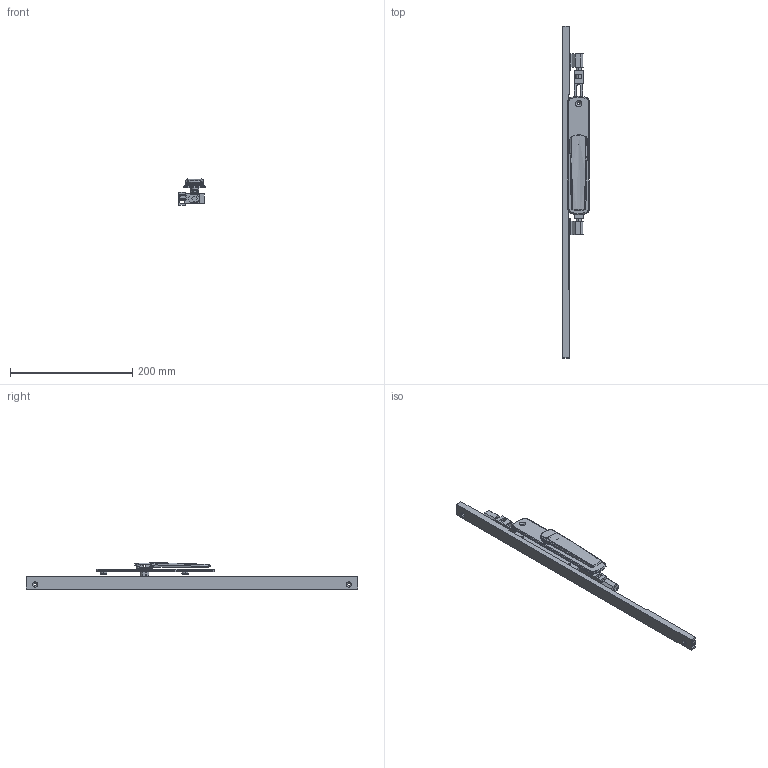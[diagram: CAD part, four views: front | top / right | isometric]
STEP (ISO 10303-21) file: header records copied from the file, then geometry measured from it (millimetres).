
FILE_DESCRIPTION (( 'STEP AP214' ), '1' );
FILE_NAME ('TPL-W-APC-602-L 28Oct2024.STEP', '2024-10-28T01:43:08', ( '' ), ( '' ), 'SwSTEP 2.0', 'SolidWorks 2023', '' );
FILE_SCHEMA (( 'AUTOMOTIVE_DESIGN' ));
Length unit declared in the file: millimetre
Products named in the file (18): Copy of COV-115-A Cover A suit TPLGen2 standard range AU with hinge holes^TPL-W-APC-102 18Oct2024_1335mm; TPL-W-APC-602-L 28Oct2024; Copy of TPLGen2 lock body non-keyed assembly^TPL-W-APC-102 18Oct2024_Bolts extended; Copy of LKC-585 Rotator body zinc^Copy of TPGen2 handle non-keyed short zinc - simplified_TPL-W-APC-102 18Oct2024; Copy of TPLGen2 push rod - simplified^Copy of TPLGen2 lock body non-keyed assembly_TPL-W-APC-102 18Oct2024_Female thread M10; Bolt(2)^TPL-W-APC-102 18Oct2024; Copy of LKC-505 Swing handle zinc - simplified^Copy of TPGen2 handle non-keyed short zinc - simplified_TPL-W-APC-102 18Oct2024; Copy of TPGen2 handle non-keyed short zinc - simplified^TPL-W-APC-102 18Oct2024_Vertical; Copy of LKC-516 Escutcheon plate unkeyed 195mm long zinc - simplified^Copy of TPGen2 handle non-keyed short zinc - simplified_TPL-W-APC-102 18Oct2024; Adapter C - simplfied^TPL-W-APC-102 18Oct2024; Copy of COV-115-C Cover C suit TPLGen2 standard range AU^TPL-W-APC-102 18Oct2024; Adapter D - simplfied^TPL-W-APC-102 18Oct2024; Copy of TPLGen2 lock body non-keyed^Copy of TPLGen2 lock body non-keyed assembly_TPL-W-APC-102 18Oct2024; Copy of Copy of Copy of LKC-531 Lock twinpoint transmission rod wood system^TPL-W-APC-102 18Oct2024_Standard Range 2891.7mm; Copy of COV-115-B Cover B suit TPLGen2 standard range AU with hinge holes^TPL-W-APC-102 18Oct2024_2870mm; Copy of LKC-586 Spindle square 8mm with M4 hole^Copy of TPGen2 handle non-keyed short zinc - simplified_TPL-W-APC-102 18Oct2024_25mm; Copy of LKC-584 Pivot body zinc - simplified^Copy of TPGen2 handle non-keyed short zinc - simplified_TPL-W-APC-102 18Oct2024; Copy of Copy of LKC-531 Lock twinpoint transmission rod wood system^TPL-W-APC-102 18Oct2024_Standard Range 2891.7mm
Assembly tree (15 placements, depth 3):
  Copy of COV-115-A Cover A suit TPLGen2 standard range AU with hinge holes^TPL-W-APC-102 18Oct2024_1335mm
  TPL-W-APC-602-L 28Oct2024
    Copy of TPLGen2 lock body non-keyed assembly^TPL-W-APC-102 18Oct2024_Bolts extended
      Copy of TPLGen2 lock body non-keyed^Copy of TPLGen2 lock body non-keyed assembly_TPL-W-APC-102 18Oct2024
      Copy of TPLGen2 push rod - simplified^Copy of TPLGen2 lock body non-keyed assembly_TPL-W-APC-102 18Oct2024_Female thread M10  x2
    Copy of TPGen2 handle non-keyed short zinc - simplified^TPL-W-APC-102 18Oct2024_Vertical
      Copy of LKC-516 Escutcheon plate unkeyed 195mm long zinc - simplified^Copy of TPGen2 handle non-keyed short zinc - simplified_TPL-W-APC-102 18Oct2024
      Copy of LKC-505 Swing handle zinc - simplified^Copy of TPGen2 handle non-keyed short zinc - simplified_TPL-W-APC-102 18Oct2024
      Copy of LKC-585 Rotator body zinc^Copy of TPGen2 handle non-keyed short zinc - simplified_TPL-W-APC-102 18Oct2024
      Copy of LKC-586 Spindle square 8mm with M4 hole^Copy of TPGen2 handle non-keyed short zinc - simplified_TPL-W-APC-102 18Oct2024_25mm
      Copy of LKC-584 Pivot body zinc - simplified^Copy of TPGen2 handle non-keyed short zinc - simplified_TPL-W-APC-102 18Oct2024
    Copy of COV-115-C Cover C suit TPLGen2 standard range AU^TPL-W-APC-102 18Oct2024
    Copy of Copy of LKC-531 Lock twinpoint transmission rod wood system^TPL-W-APC-102 18Oct2024_Standard Range 2891.7mm
    Copy of Copy of Copy of LKC-531 Lock twinpoint transmission rod wood system^TPL-W-APC-102 18Oct2024_Standard Range 2891.7mm
    Adapter D - simplfied^TPL-W-APC-102 18Oct2024
    Adapter C - simplfied^TPL-W-APC-102 18Oct2024
  Bolt(2)^TPL-W-APC-102 18Oct2024
  Copy of COV-115-B Cover B suit TPLGen2 standard range AU with hinge holes^TPL-W-APC-102 18Oct2024_2870mm
Bounding box: 43.5 x 544 x 42.86 mm (x, y, z)
Volume: 200603.2 mm3; surface area: 112405.7 mm2
Topology: 13 solids, 13 shells, 843 faces, 2076 edges, 1288 vertices
Faces by surface type: plane 300, bspline 241, cylinder 182, cone 66, torus 46, sphere 8
Entity records: 30415 total; most frequent: CARTESIAN_POINT 12515, ORIENTED_EDGE 3960, DIRECTION 3150, EDGE_CURVE 1980, VERTEX_POINT 1228, AXIS2_PLACEMENT_3D 1141, EDGE_LOOP 890, LINE 868
